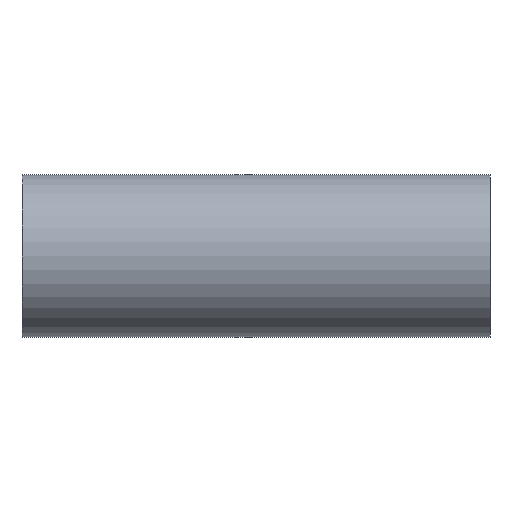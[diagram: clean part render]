
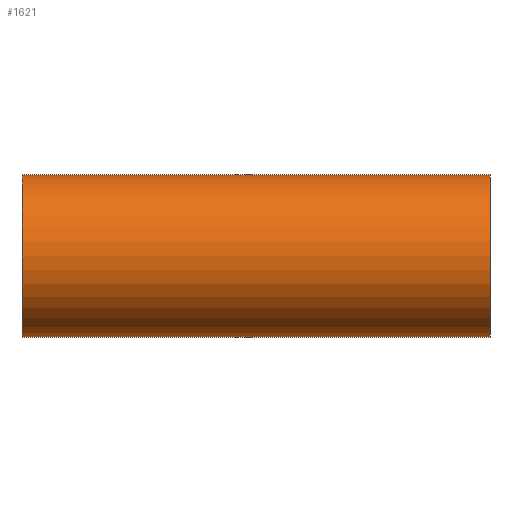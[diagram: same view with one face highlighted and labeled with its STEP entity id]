
A CAD part, front view. The second image highlights one B-rep face of the part: STEP entity #1621.
In plain terms, the highlighted cylindrical face has radius 25.4 mm (diameter 50.8 mm), a partial arc.
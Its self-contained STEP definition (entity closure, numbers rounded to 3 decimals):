
#151 = ORIENTED_EDGE ( 'NONE', *, *, #1941, .T. ) ;
#245 = CARTESIAN_POINT ( 'NONE',  ( 73., 0., 0. ) ) ;
#273 = CARTESIAN_POINT ( 'NONE',  ( 73., 0., -25.4 ) ) ;
#391 = ORIENTED_EDGE ( 'NONE', *, *, #454, .T. ) ;
#425 = DIRECTION ( 'NONE',  ( 0., 0., -1. ) ) ;
#454 = EDGE_CURVE ( 'NONE', #624, #1652, #556, .T. ) ;
#460 = FACE_OUTER_BOUND ( 'NONE', #1598, .T. ) ;
#474 = ORIENTED_EDGE ( 'NONE', *, *, #1963, .T. ) ;
#490 = CARTESIAN_POINT ( 'NONE',  ( -73., 0., -25.4 ) ) ;
#526 = LINE ( 'NONE', #490, #1298 ) ;
#535 = ORIENTED_EDGE ( 'NONE', *, *, #1133, .F. ) ;
#556 = CIRCLE ( 'NONE', #1372, 25.4 ) ;
#624 = VERTEX_POINT ( 'NONE', #273 ) ;
#637 = CARTESIAN_POINT ( 'NONE',  ( -73., 0., -25.4 ) ) ;
#700 = AXIS2_PLACEMENT_3D ( 'NONE', #1168, #1132, #1411 ) ;
#799 = DIRECTION ( 'NONE',  ( 1., 0., 0. ) ) ;
#851 = CARTESIAN_POINT ( 'NONE',  ( -73., 0., 25.4 ) ) ;
#900 = CIRCLE ( 'NONE', #999, 25.4 ) ;
#999 = AXIS2_PLACEMENT_3D ( 'NONE', #1745, #799, #1873 ) ;
#1020 = VERTEX_POINT ( 'NONE', #851 ) ;
#1132 = DIRECTION ( 'NONE',  ( 1., 0., 0. ) ) ;
#1133 = EDGE_CURVE ( 'NONE', #1020, #1652, #1248, .T. ) ;
#1168 = CARTESIAN_POINT ( 'NONE',  ( -73., 0., 0. ) ) ;
#1230 = CYLINDRICAL_SURFACE ( 'NONE', #700, 25.4 ) ;
#1248 = LINE ( 'NONE', #1929, #1995 ) ;
#1298 = VECTOR ( 'NONE', #1981, 1000. ) ;
#1336 = DIRECTION ( 'NONE',  ( -1., 0., 0. ) ) ;
#1371 = CARTESIAN_POINT ( 'NONE',  ( 73., 0., 25.4 ) ) ;
#1372 = AXIS2_PLACEMENT_3D ( 'NONE', #245, #1336, #425 ) ;
#1411 = DIRECTION ( 'NONE',  ( 0., 0., -1. ) ) ;
#1598 = EDGE_LOOP ( 'NONE', ( #535, #474, #151, #391 ) ) ;
#1621 = ADVANCED_FACE ( 'NONE', ( #460 ), #1230, .T. ) ;
#1652 = VERTEX_POINT ( 'NONE', #1371 ) ;
#1685 = DIRECTION ( 'NONE',  ( 1., 0., 0. ) ) ;
#1745 = CARTESIAN_POINT ( 'NONE',  ( -73., 0., 0. ) ) ;
#1873 = DIRECTION ( 'NONE',  ( 0., 0., -1. ) ) ;
#1929 = CARTESIAN_POINT ( 'NONE',  ( -73., 0., 25.4 ) ) ;
#1938 = VERTEX_POINT ( 'NONE', #637 ) ;
#1941 = EDGE_CURVE ( 'NONE', #1938, #624, #526, .T. ) ;
#1963 = EDGE_CURVE ( 'NONE', #1020, #1938, #900, .T. ) ;
#1981 = DIRECTION ( 'NONE',  ( 1., 0., 0. ) ) ;
#1995 = VECTOR ( 'NONE', #1685, 1000. ) ;
